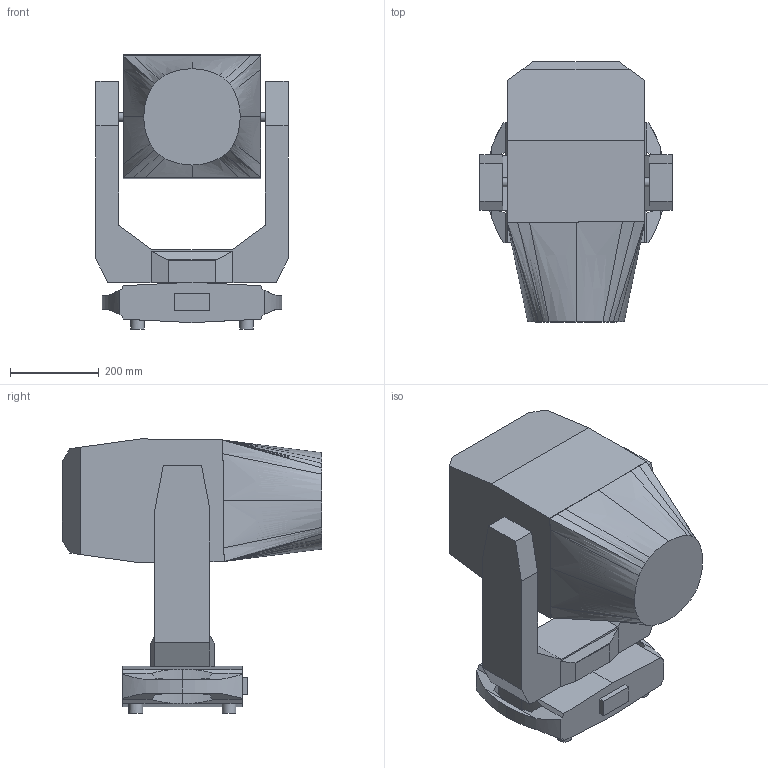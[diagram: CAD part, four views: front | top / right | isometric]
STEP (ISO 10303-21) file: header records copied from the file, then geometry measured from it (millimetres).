
FILE_DESCRIPTION(/* description */ (''),/* implementation_level */ '2;1');
FILE_NAME(/* name */ 'D:/dgooch/Documents/CADENG/PRO/Maverick Silens 2 Profile/90/3D/Maverick Silens 2 Profile_90.step',/* time_stamp */ '2019-09-06T08:51:48-04:00',/* author */ (''),/* organization */ (''),/* preprocessor_version */ 'ST-DEVELOPER v18',/* originating_system */ 'Autodesk Translation Framework v8.6.0.1094',/* authorisation */ '');
FILE_SCHEMA (('AUTOMOTIVE_DESIGN { 1 0 10303 214 3 1 1 }'));
Length unit declared in the file: millimetre
Products named in the file (3): Maverick Silens 2 Profile; Head; Base
Assembly tree (2 placements, depth 2):
  Maverick Silens 2 Profile
    Head
    Base
Bounding box: 432.79 x 584.84 x 616.97 mm (x, y, z)
Volume: 59098767.1 mm3; surface area: 1495333.6 mm2
Topology: 2 solids, 2 shells, 118 faces, 334 edges, 221 vertices
Faces by surface type: plane 76, bspline 24, cylinder 18
Full cylindrical faces by diameter (mm): 20 x2, 31 x4
Entity records: 5529 total; most frequent: CARTESIAN_POINT 2452, ORIENTED_EDGE 668, DIRECTION 556, EDGE_CURVE 334, LINE 238, VECTOR 238, VERTEX_POINT 221, AXIS2_PLACEMENT_3D 159
